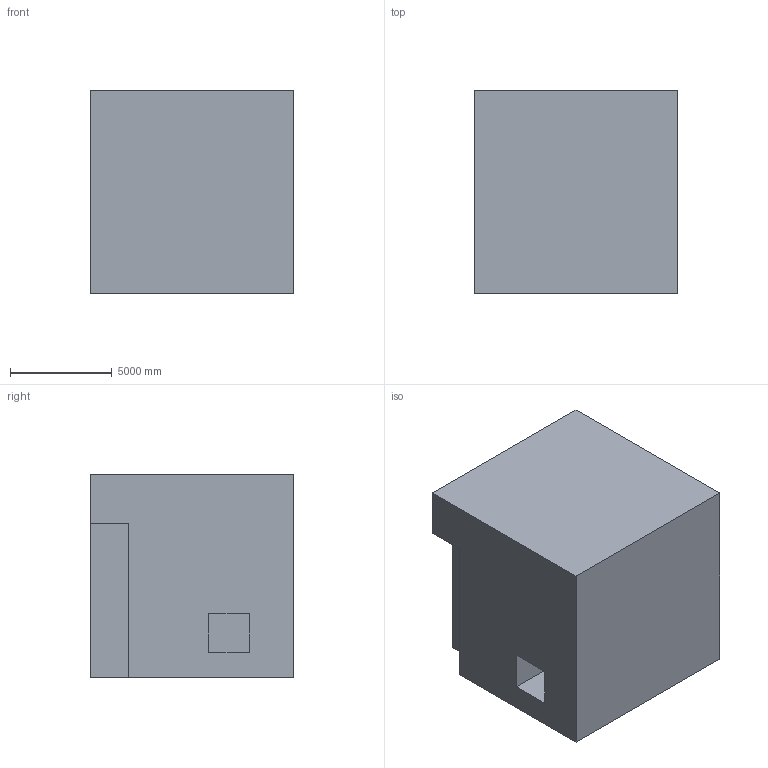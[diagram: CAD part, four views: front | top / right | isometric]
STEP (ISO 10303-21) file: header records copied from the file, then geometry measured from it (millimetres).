
FILE_DESCRIPTION (( 'STEP AP203' ), '1' );
FILE_NAME ('1153.STEP', '2022-08-18T12:58:12', ( 'user' ), ( '' ), 'SwSTEP 2.0', 'SolidWorks 2021', '' );
FILE_SCHEMA (( 'CONFIG_CONTROL_DESIGN' ));
Length unit declared in the file: centimetre
Products named in the file (1): 1153
Bounding box: 10000 x 10000 x 10000 mm (x, y, z)
Volume: 958503143695.2 mm3; surface area: 644621164.9 mm2
Topology: 1 solids, 1 shells, 14 faces, 33 edges, 22 vertices
Faces by surface type: plane 14
Entity records: 474 total; most frequent: CARTESIAN_POINT 70, ORIENTED_EDGE 66, DIRECTION 63, VECTOR 33, EDGE_CURVE 33, LINE 33, VERTEX_POINT 22, AXIS2_PLACEMENT_3D 15
